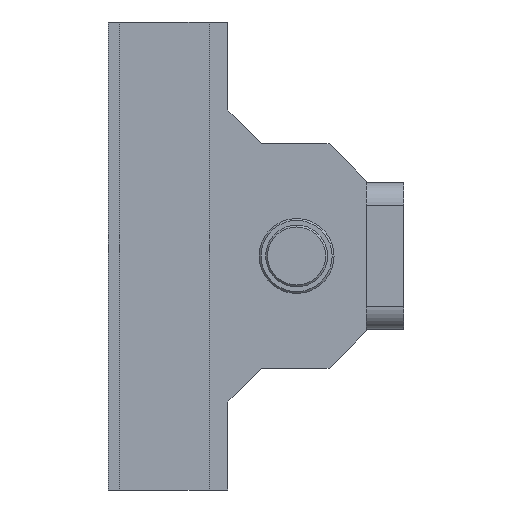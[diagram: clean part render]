
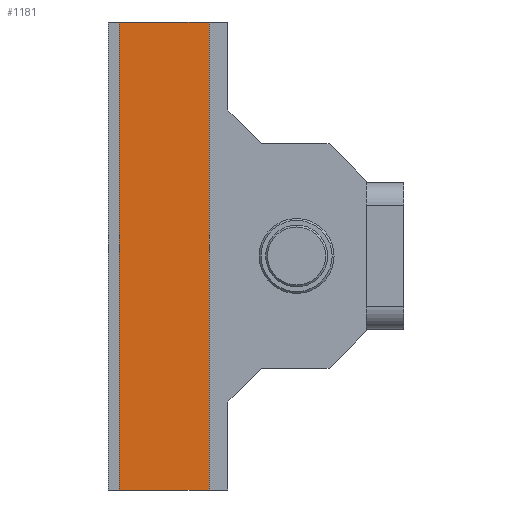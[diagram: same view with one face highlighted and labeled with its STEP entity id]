
A CAD part, left-side view. The second image highlights one B-rep face of the part: STEP entity #1181.
In plain terms, the highlighted planar face has unit normal (-1, 0, 0).
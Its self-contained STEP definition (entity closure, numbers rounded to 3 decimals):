
#89 = AXIS2_PLACEMENT_3D ( 'NONE', #770, #2373, #2404 ) ;
#135 = DIRECTION ( 'NONE',  ( 0., -1., 0. ) ) ;
#154 = DIRECTION ( 'NONE',  ( 0., -1., 0. ) ) ;
#206 = LINE ( 'NONE', #1873, #1923 ) ;
#367 = EDGE_CURVE ( 'NONE', #2402, #935, #206, .T. ) ;
#487 = CARTESIAN_POINT ( 'NONE',  ( -16.5, 86., -62.5 ) ) ;
#570 = FACE_OUTER_BOUND ( 'NONE', #2597, .T. ) ;
#770 = CARTESIAN_POINT ( 'NONE',  ( -16.5, 86., 62.5 ) ) ;
#845 = ORIENTED_EDGE ( 'NONE', *, *, #2074, .F. ) ;
#935 = VERTEX_POINT ( 'NONE', #2368 ) ;
#1181 = ADVANCED_FACE ( 'NONE', ( #570 ), #2017, .F. ) ;
#1187 = VERTEX_POINT ( 'NONE', #2601 ) ;
#1276 = CARTESIAN_POINT ( 'NONE',  ( -16.5, 86., 62.5 ) ) ;
#1344 = CARTESIAN_POINT ( 'NONE',  ( -16.5, 86., 62.5 ) ) ;
#1383 = EDGE_CURVE ( 'NONE', #2177, #935, #2614, .T. ) ;
#1624 = CARTESIAN_POINT ( 'NONE',  ( -16.5, 62., 62.5 ) ) ;
#1662 = LINE ( 'NONE', #1276, #1756 ) ;
#1669 = VECTOR ( 'NONE', #135, 1000. ) ;
#1756 = VECTOR ( 'NONE', #2101, 1000. ) ;
#1873 = CARTESIAN_POINT ( 'NONE',  ( -16.5, 62., 62.5 ) ) ;
#1923 = VECTOR ( 'NONE', #2093, 1000. ) ;
#1958 = ORIENTED_EDGE ( 'NONE', *, *, #1383, .T. ) ;
#2017 = PLANE ( 'NONE',  #89 ) ;
#2074 = EDGE_CURVE ( 'NONE', #1187, #2402, #2152, .T. ) ;
#2093 = DIRECTION ( 'NONE',  ( 0., 0., -1. ) ) ;
#2101 = DIRECTION ( 'NONE',  ( 0., 0., -1. ) ) ;
#2144 = EDGE_CURVE ( 'NONE', #1187, #2177, #1662, .T. ) ;
#2152 = LINE ( 'NONE', #1344, #1669 ) ;
#2177 = VERTEX_POINT ( 'NONE', #487 ) ;
#2368 = CARTESIAN_POINT ( 'NONE',  ( -16.5, 62., -62.5 ) ) ;
#2373 = DIRECTION ( 'NONE',  ( 1., 0., 0. ) ) ;
#2402 = VERTEX_POINT ( 'NONE', #1624 ) ;
#2404 = DIRECTION ( 'NONE',  ( 0., 1., 0. ) ) ;
#2519 = VECTOR ( 'NONE', #154, 1000. ) ;
#2526 = ORIENTED_EDGE ( 'NONE', *, *, #2144, .T. ) ;
#2589 = CARTESIAN_POINT ( 'NONE',  ( -16.5, 86., -62.5 ) ) ;
#2597 = EDGE_LOOP ( 'NONE', ( #2526, #1958, #2638, #845 ) ) ;
#2601 = CARTESIAN_POINT ( 'NONE',  ( -16.5, 86., 62.5 ) ) ;
#2614 = LINE ( 'NONE', #2589, #2519 ) ;
#2638 = ORIENTED_EDGE ( 'NONE', *, *, #367, .F. ) ;
